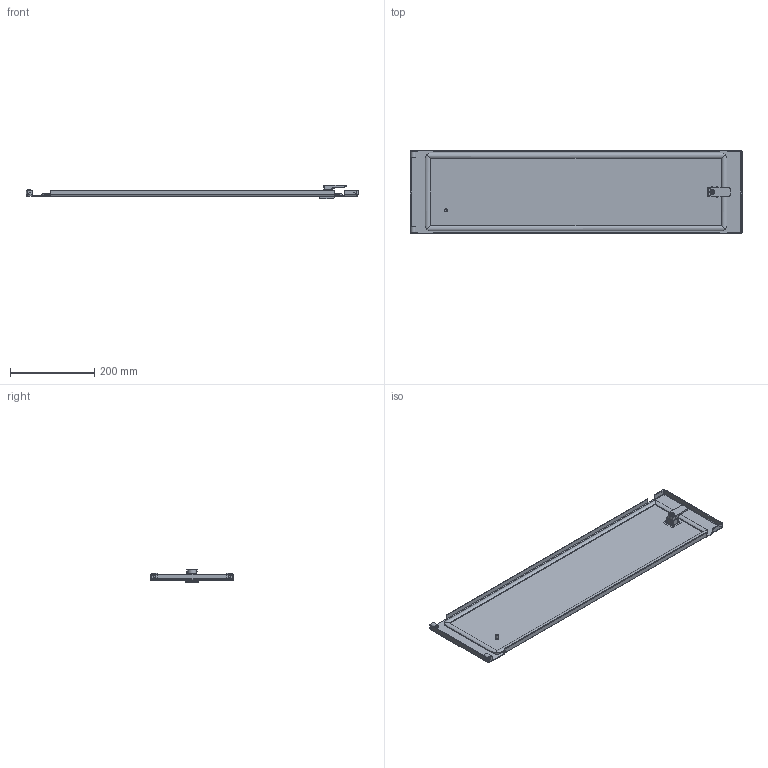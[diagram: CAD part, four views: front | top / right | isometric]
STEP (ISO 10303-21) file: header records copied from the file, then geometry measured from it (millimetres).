
FILE_DESCRIPTION(('STEP AP203'), '1');
FILE_NAME('Äâåðü ñåêöèîííàÿ 200õ800 ìì OptiBox M 419354 ÊÝÀÇ', '', ('UNSPECIFIED'), ('UNSPECIFIED'), 'C3D Converter', 'C3D Toolkit', '');
FILE_SCHEMA(('CONFIG_CONTROL_DESIGN'));
Length unit declared in the file: millimetre
Products named in the file (7): Дверь со шпилькой 200х400; Панель двери 200х800; Шпилька приварная омедненная 6х10_Њ6е15; Ответная часть петли; Замок с бороздками ритал 1; Уплотнитель двери 200х800
Assembly tree (7 placements, depth 3):
  (unnamed)
    Дверь со шпилькой 200х400
      Панель двери 200х800
      Шпилька приварная омедненная 6х10_Њ6е15
      Ответная часть петли  x2
    Замок с бороздками ритал 1
    Уплотнитель двери 200х800
Bounding box: 786.4 x 197 x 32.2 mm (x, y, z)
Volume: 447708.4 mm3; surface area: 416600.6 mm2
Topology: 6 solids, 6 shells, 355 faces, 928 edges, 588 vertices
Faces by surface type: plane 252, cylinder 92, bspline 8, cone 2, torus 1
Full cylindrical faces by diameter (mm): 0.75 x1, 1 x1, 3 x1, 5 x2, 6 x1, 7.5 x1, 9.3 x1, 10 x1, 20 x1
Entity records: 13619 total; most frequent: CARTESIAN_POINT 3064, ORIENTED_EDGE 1794, DIRECTION 1707, EDGE_CURVE 897, LINE 691, VECTOR 691, VERTEX_POINT 576, AXIS2_PLACEMENT_3D 508
